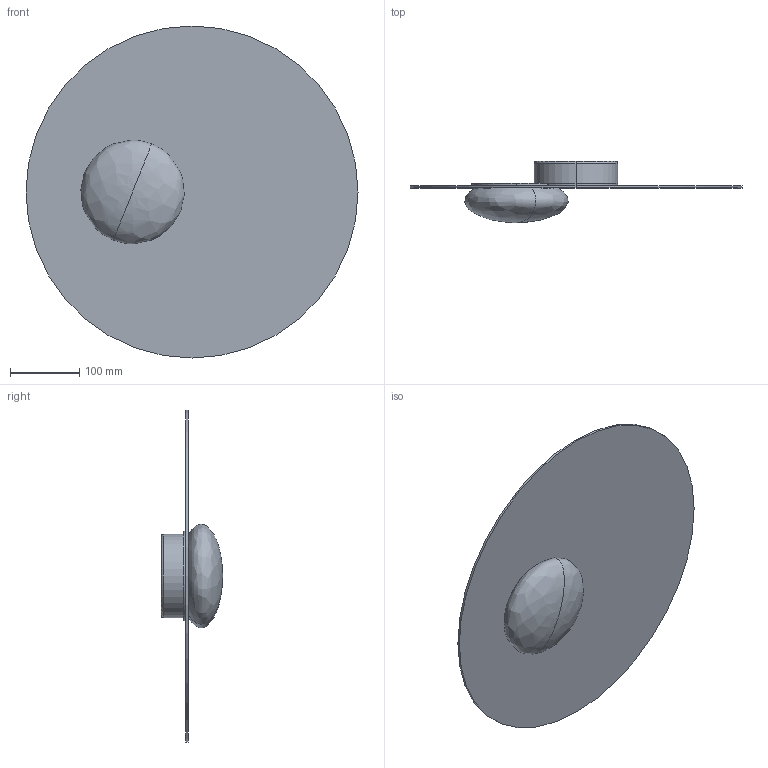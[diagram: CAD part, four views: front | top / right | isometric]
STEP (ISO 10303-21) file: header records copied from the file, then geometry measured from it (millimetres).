
FILE_DESCRIPTION (( 'STEP AP203' ), '1' );
FILE_NAME ('KWIC_Ceiling_480.STEP', '2019-07-25T13:28:26', ( '' ), ( '' ), 'SwSTEP 2.0', 'SolidWorks 2019', '' );
FILE_SCHEMA (( 'CONFIG_CONTROL_DESIGN' ));
Length unit declared in the file: millimetre
Products named in the file (8): KWIC_Ceiling_480.STEP; KWIC Interface plate Ver5.STEP; KWIC Ceiling Box Ver5.STEP; WSAXO069VEAA020000.STEP; KWIC_Ceiling_480; KWIC Disc Ver5_480.STEP; KWIC Top Diffuser Ver5.STEP; KWIC_DISC_v5.STEP
Assembly tree (7 placements, depth 4):
  KWIC_Ceiling_480
    KWIC_Ceiling_480.STEP
      KWIC_DISC_v5.STEP
        KWIC Disc Ver5_480.STEP
        WSAXO069VEAA020000.STEP
        KWIC Top Diffuser Ver5.STEP
      KWIC Interface plate Ver5.STEP
      KWIC Ceiling Box Ver5.STEP
Bounding box: 480 x 88.5 x 480 mm (x, y, z)
Volume: 717016.9 mm3; surface area: 511926.6 mm2
Topology: 5 solids, 5 shells, 228 faces, 606 edges, 386 vertices
Faces by surface type: cylinder 155, cone 42, plane 23, bspline 4, torus 4
Entity records: 8430 total; most frequent: CARTESIAN_POINT 1450, DIRECTION 1432, ORIENTED_EDGE 1204, EDGE_CURVE 602, AXIS2_PLACEMENT_3D 598, VERTEX_POINT 386, CIRCLE 362, EDGE_LOOP 318
